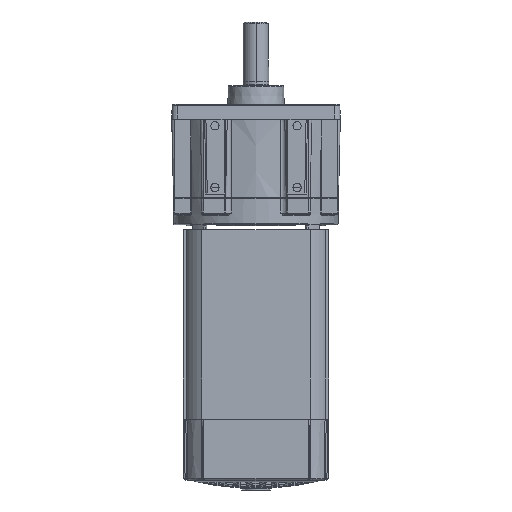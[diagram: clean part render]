
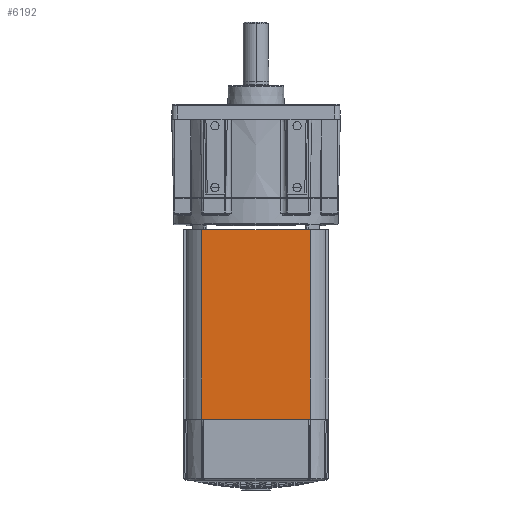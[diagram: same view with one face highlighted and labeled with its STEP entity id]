
A CAD part, front view. The second image highlights one B-rep face of the part: STEP entity #6192.
In plain terms, the highlighted planar face has unit normal (0, -1, 0).
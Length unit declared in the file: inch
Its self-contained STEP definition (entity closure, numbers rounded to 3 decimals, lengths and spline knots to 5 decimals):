
#6160 = VERTEX_POINT ( 'NONE', #11353 ) ;
#6189 = VERTEX_POINT ( 'NONE', #11490 ) ;
#6191 = EDGE_CURVE ( 'NONE', #6189, #6160, #11489, .T. ) ;
#6192 = ADVANCED_FACE ( 'NONE', ( #11484 ), #11478, .T. ) ;
#6193 = EDGE_LOOP ( 'NONE', ( #6194, #6197, #6198, #6201 ) ) ;
#6194 = ORIENTED_EDGE ( 'NONE', *, *, #6195, .F. ) ;
#6195 = EDGE_CURVE ( 'NONE', #6160, #6196, #11468, .T. ) ;
#6196 = VERTEX_POINT ( 'NONE', #11460 ) ;
#6197 = ORIENTED_EDGE ( 'NONE', *, *, #6191, .F. ) ;
#6198 = ORIENTED_EDGE ( 'NONE', *, *, #6199, .T. ) ;
#6199 = EDGE_CURVE ( 'NONE', #6189, #6200, #11462, .T. ) ;
#6200 = VERTEX_POINT ( 'NONE', #11581 ) ;
#6201 = ORIENTED_EDGE ( 'NONE', *, *, #6202, .T. ) ;
#6202 = EDGE_CURVE ( 'NONE', #6200, #6196, #11578, .T. ) ;
#11353 = CARTESIAN_POINT ( 'NONE',  ( -1.325, -1.7765, -3.0618 ) ) ;
#11460 = CARTESIAN_POINT ( 'NONE',  ( 1.325, -1.7765, -3.0618 ) ) ;
#11462 = LINE ( 'NONE', #11587, #11585 ) ;
#11464 = DIRECTION ( 'NONE',  ( 1., 0., 0. ) ) ;
#11466 = VECTOR ( 'NONE', #11464, 39.37008 ) ;
#11467 = CARTESIAN_POINT ( 'NONE',  ( -1.325, -1.7765, -3.0618 ) ) ;
#11468 = LINE ( 'NONE', #11467, #11466 ) ;
#11474 = DIRECTION ( 'NONE',  ( 0., 0., -1. ) ) ;
#11475 = DIRECTION ( 'NONE',  ( 0., -1., 0. ) ) ;
#11476 = CARTESIAN_POINT ( 'NONE',  ( -1.325, -1.7765, -7.6668 ) ) ;
#11477 = AXIS2_PLACEMENT_3D ( 'NONE', #11476, #11475, #11474 ) ;
#11478 = PLANE ( 'NONE',  #11477 ) ;
#11484 = FACE_OUTER_BOUND ( 'NONE', #6193, .T. ) ;
#11486 = DIRECTION ( 'NONE',  ( 0., 0., 1. ) ) ;
#11487 = VECTOR ( 'NONE', #11486, 39.37008 ) ;
#11488 = CARTESIAN_POINT ( 'NONE',  ( -1.325, -1.7765, -7.6668 ) ) ;
#11489 = LINE ( 'NONE', #11488, #11487 ) ;
#11490 = CARTESIAN_POINT ( 'NONE',  ( -1.325, -1.7765, -7.6668 ) ) ;
#11573 = DIRECTION ( 'NONE',  ( 0., 0., 1. ) ) ;
#11575 = VECTOR ( 'NONE', #11573, 39.37008 ) ;
#11577 = CARTESIAN_POINT ( 'NONE',  ( 1.325, -1.7765, -7.6668 ) ) ;
#11578 = LINE ( 'NONE', #11577, #11575 ) ;
#11581 = CARTESIAN_POINT ( 'NONE',  ( 1.325, -1.7765, -7.6668 ) ) ;
#11583 = DIRECTION ( 'NONE',  ( 1., 0., 0. ) ) ;
#11585 = VECTOR ( 'NONE', #11583, 39.37008 ) ;
#11587 = CARTESIAN_POINT ( 'NONE',  ( -1.325, -1.7765, -7.6668 ) ) ;
